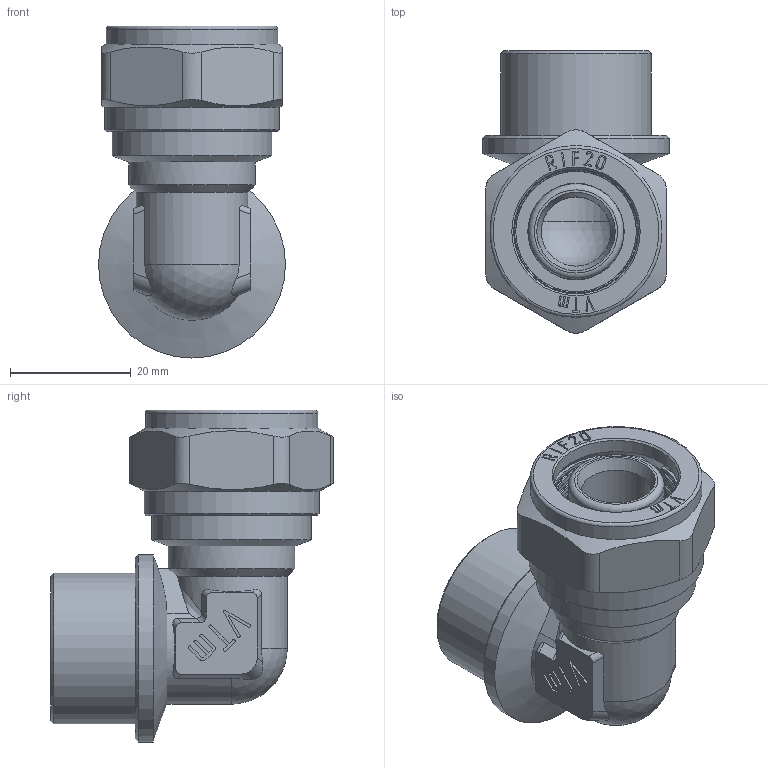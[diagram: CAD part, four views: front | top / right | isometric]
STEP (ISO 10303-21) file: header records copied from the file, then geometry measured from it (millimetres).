
FILE_DESCRIPTION(('STEP AP203'), '1');
FILE_NAME('VTm.352.N.002004', '', ('UNSPECIFIED'), ('UNSPECIFIED'), 'C3D Converter', 'C3D Toolkit', '');
FILE_SCHEMA(('CONFIG_CONTROL_DESIGN'));
Length unit declared in the file: millimetre
Products named in the file (1): ВР.302635.101.000 СБ
Bounding box: 31 x 46.85 x 55.03 mm (x, y, z)
Volume: 19668.9 mm3; surface area: 13848.8 mm2
Topology: 1 solids, 1 shells, 452 faces, 1245 edges, 820 vertices
Faces by surface type: extrusion 195, plane 161, cylinder 48, torus 27, cone 17, bspline 2, sphere 2
Full cylindrical faces by diameter (mm): 11.5 x1, 15 x1, 15.8 x4, 15.9 x1, 18.632 x1, 20.1 x1, 20.2 x1, 20.7 x1, 21 x1, 24.118 x1, 25 x1, 26.441 x1, 28.5 x1, 29 x1, 31 x1
Entity records: 16461 total; most frequent: CARTESIAN_POINT 6064, ORIENTED_EDGE 2396, DIRECTION 1498, EDGE_CURVE 1198, VERTEX_POINT 820, VECTOR 758, B_SPLINE_CURVE_WITH_KNOTS 678, LINE 563
